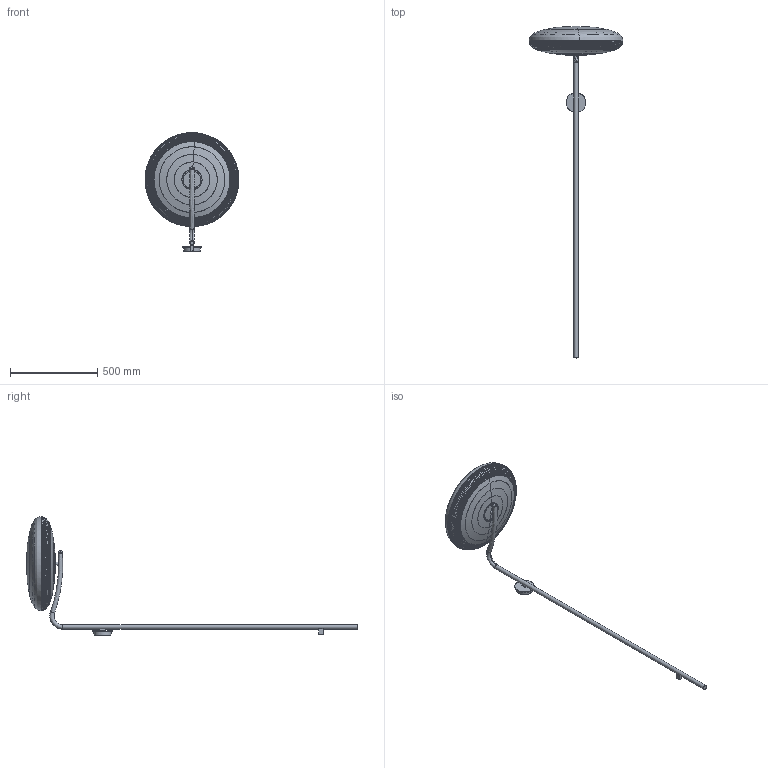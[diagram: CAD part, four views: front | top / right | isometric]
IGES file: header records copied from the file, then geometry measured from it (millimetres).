
Global section: file name: /Users/nicholas/Desktop/Astep - CAD - Model 2065 Wall/3D/Model 2065 Wall.igs; native system: Rhinoceros ( Jul 15 2021 ); preprocessor: Trout Lake IGES 012 Jul 15 2021; date: 220915.095428; units: millimetre
Bounding box: 537.83 x 1900.19 x 679.32 mm (x, y, z)
Surface area: 1254829.4 mm2 (no closed solid volume)
Topology: 0 solids, 0 shells, 185 faces, 806 edges, 802 vertices
Faces by surface type: bspline 185
